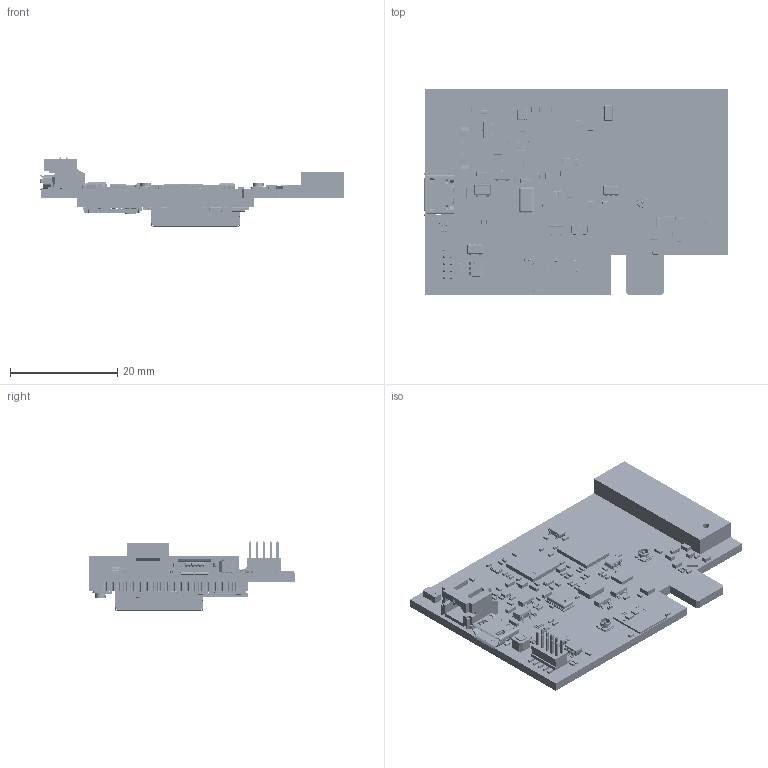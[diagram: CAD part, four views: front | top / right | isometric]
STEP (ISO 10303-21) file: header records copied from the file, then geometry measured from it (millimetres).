
FILE_DESCRIPTION(('Open CASCADE Model'),'2;1');
FILE_NAME('Open CASCADE Shape Model','2021-08-04T09:31:36',('Author'),( 'Open CASCADE'),'Open CASCADE STEP processor 6.8','Open CASCADE 6.8' ,'Unknown');
FILE_SCHEMA(('AUTOMOTIVE_DESIGN { 1 0 10303 214 1 1 1 1 }'));
Length unit declared in the file: millimetre
Products named in the file (290): PCB; Board; Open CASCADE STEP translator 6.8 2.1.1; J5; Samtec_FTSH-105-01-F-DV; _FTSH-105-01-F-DV_body; _FTSH-105-01-F-DV_pins1; _FTSH-105-01-F-DV_pins2; R35; Resistor_1609-0603; R34; Resistor_1005-0402; L11; InductorINDC1005X60N; J4; U.FL-R-SMT-1; ANT3; Antenova_M20047_3D; F1; 626015464; Extruded; U1; 626011656; Free-Models; User_Library-CAPC0603X___; U13; 6207819136; R33; R32; Q5; SOT-23; Q4; C42; Capacitor_0402(1005M); U12; 6207823456; R31; L10; InductorINDC1608X95N; L9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
Assembly tree (614 placements, depth 8):
  PCB
    Board
      Open CASCADE STEP translator 6.8 2.1.1
    J5
      Samtec_FTSH-105-01-F-DV
        _FTSH-105-01-F-DV_body
        _FTSH-105-01-F-DV_pins1
        _FTSH-105-01-F-DV_pins2
    R35
      Resistor_1609-0603
    R34
      Resistor_1005-0402
    L11
      InductorINDC1005X60N
    J4
      U.FL-R-SMT-1
    ANT3
      Antenova_M20047_3D
        Board
        F1
          626015464
            Extruded
        U1
          626011656
            Extruded
        Free-Models
          User_Library-CAPC0603X___  x5
    U13
      6207819136
        Extruded
    R33
      Resistor_1005-0402
    R32
      Resistor_1005-0402
    Q5
      SOT-23
    Q4
      SOT-23
    C42
      Capacitor_0402(1005M)
    U12
      6207823456
        Extruded
    R31
      Resistor_1005-0402
    L10
      InductorINDC1608X95N
    L9
      InductorINDC1608X95N
    C41
      Capacitor_0402(1005M)
    C40
      Capacitor_0402(1005M)
    C39
      Capacitor_0402(1005M)
    R30
      Resistor_1005-0402
    R29
      Resistor_1005-0402
    R28
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Bounding box: 56.69 x 38.4 x 12.92 mm (x, y, z)
Volume: 7508.2 mm3; surface area: 13514.1 mm2
Topology: 715 solids, 717 shells, 18525 faces, 46522 edges, 29704 vertices
Faces by surface type: plane 10046, bspline 5105, cylinder 2970, torus 159, sphere 130, extrusion 63, cone 40, revolution 12
Full cylindrical faces by diameter (mm): 0.25 x184, 0.887 x1, 1.3 x1
Entity records: 235637 total; most frequent: CARTESIAN_POINT 71059, ORIENTED_EDGE 29975, DIRECTION 26301, EDGE_CURVE 14989, VECTOR 10801, LINE 10738, VERTEX_POINT 9722, AXIS2_PLACEMENT_3D 7746
